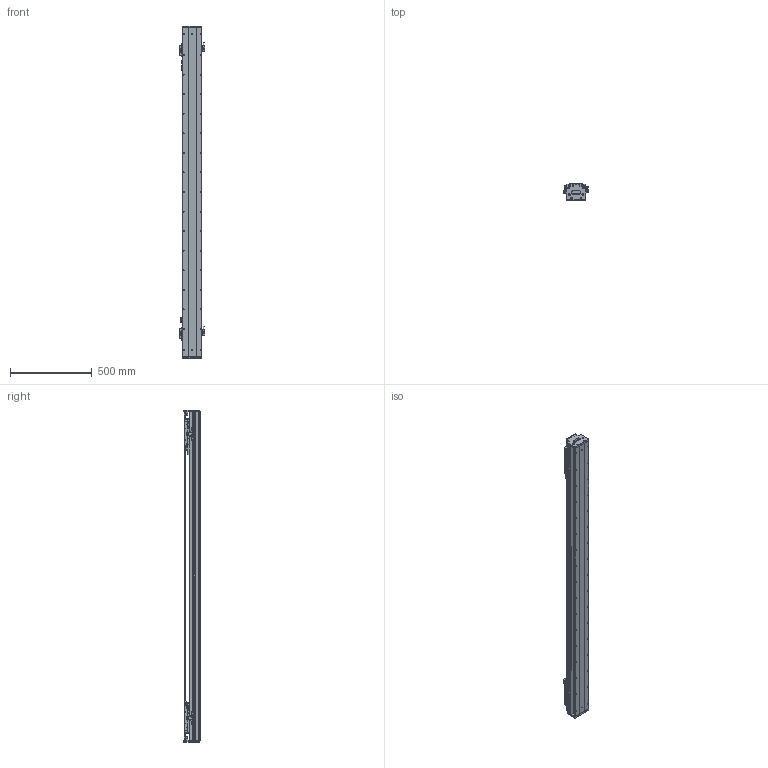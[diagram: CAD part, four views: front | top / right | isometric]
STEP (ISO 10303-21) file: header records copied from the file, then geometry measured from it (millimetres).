
FILE_DESCRIPTION (( 'STEP AP203' ), '1' );
FILE_NAME ('DKW119-2×C2-W060(T1520-L005-0.2).STEP', '2021-09-15T06:41:41', ( '微软用户' ), ( '微软中国' ), 'SwSTEP 2.0', 'SolidWorks 2018', '' );
FILE_SCHEMA (( 'CONFIG_CONTROL_DESIGN' ));
Length unit declared in the file: millimetre
Products named in the file (26): DKW-GYP-ZJ-00 笢潔嫖萇覜茼え; 10980-0001-003-00 嫖萇羲壽嘐隅釱; 11062-0001-004-00 DKW119傷啣; DKW-KGZ-ZJ-00 中间光电开关支架; 嫖萇羲壽蚾饜极; 06652-0001-004-00 DKW120嶺輸菜輸; EE_SX674A; 嫖萇羲壽蚾饜极A; 12018-0001-002-00 詩湍; 12018-0001-001-00 菁釱; DKW119-2×C2-W060(T1520-L005-0.2); DKW-SG-GYP-H-00 嫖萇覜茼え; 砎蝶猾沭; MSB15-DG-U; RUS嫖掑喜; 12160-0000-003-00 DKW120詩湍嶺輸; DKW119-RU-DTJ-00 RU2黍杅芛盓殤; Ru2; 12160-0000-004-00  DKW120詩湍揤輸; 电机出线 ^DKW119-2×C2-W060(T1520-L005-0.2); CKM02-W060_00; DKW119 单轴模组-拉钢带组件; CKMA01-W060-TRLxxx; DKW-DG-XJ-Z-00 笢潔滅袉砎蝶; pm-y65; DKW-HXJ-JY-00 遣喳砎蝶
Assembly tree (45 placements, depth 3):
  DKW119-2×C2-W060(T1520-L005-0.2)
    12018-0001-001-00 菁釱
    MSB15-DG-U  x2
    DKW119-RU-DTJ-00 RU2黍杅芛盓殤  x2
    电机出线 ^DKW119-2×C2-W060(T1520-L005-0.2)  x2
    CKMA01-W060-TRLxxx
    DKW119 单轴模组-拉钢带组件
      DKW-HXJ-JY-00 遣喳砎蝶  x4
      11062-0001-004-00 DKW119傷啣  x2
      06652-0001-004-00 DKW120嶺輸菜輸  x4
      12018-0001-002-00 詩湍
      砎蝶猾沭  x2
      12160-0000-003-00 DKW120詩湍嶺輸  x2
      12160-0000-004-00  DKW120詩湍揤輸  x2
    嫖萇羲壽蚾饜极
      pm-y65  x2
      10980-0001-003-00 嫖萇羲壽嘐隅釱
    嫖萇羲壽蚾饜极A
      pm-y65  x2
      10980-0001-003-00 嫖萇羲壽嘐隅釱
    DKW-SG-GYP-H-00 嫖萇覜茼え  x2
    RUS嫖掑喜
    Ru2  x2
    CKM02-W060_00  x2
    DKW-DG-XJ-Z-00 笢潔滅袉砎蝶
    DKW-GYP-ZJ-00 笢潔嫖萇覜茼え
    DKW-KGZ-ZJ-00 中间光电开关支架
    EE_SX674A
Bounding box: 154.3 x 99 x 2036 mm (x, y, z)
Volume: 9526850 mm3; surface area: 3039911.4 mm2
Topology: 62 solids, 160 shells, 6481 faces, 17198 edges, 11014 vertices
Faces by surface type: plane 3484, cylinder 1969, cone 534, bspline 494
Entity records: 133527 total; most frequent: CARTESIAN_POINT 44046, ORIENTED_EDGE 17923, DIRECTION 17310, EDGE_CURVE 9002, VERTEX_POINT 5900, AXIS2_PLACEMENT_3D 5846, VECTOR 5618, LINE 5618
